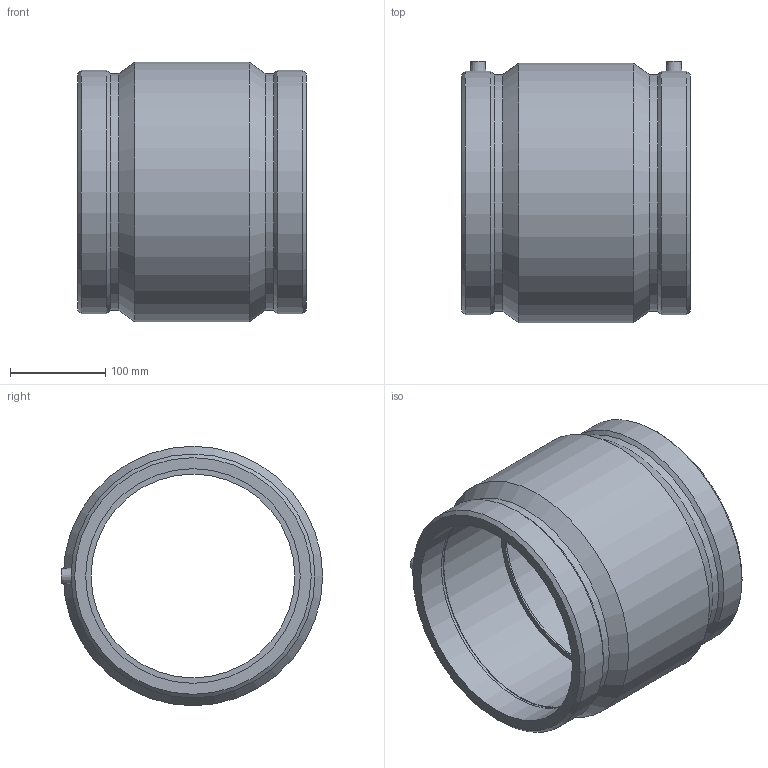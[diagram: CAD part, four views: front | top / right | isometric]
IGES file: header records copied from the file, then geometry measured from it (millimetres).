
Global section: file name: 490104225N.ipt; native system: Autodesk Inventor 2015; preprocessor: unknown; author: KIM; date: 20190124.130057; units: millimetre
Bounding box: 240 x 274 x 272 mm (x, y, z)
Volume: 3584022.8 mm3; surface area: 407789.1 mm2
Topology: 1 solids, 1 shells, 36 faces, 80 edges, 54 vertices
Faces by surface type: plane 12, revolution 9, cone 8, cylinder 7
Full cylindrical faces by diameter (mm): 4 x2, 248.01 x2, 255.68 x2, 272 x1
